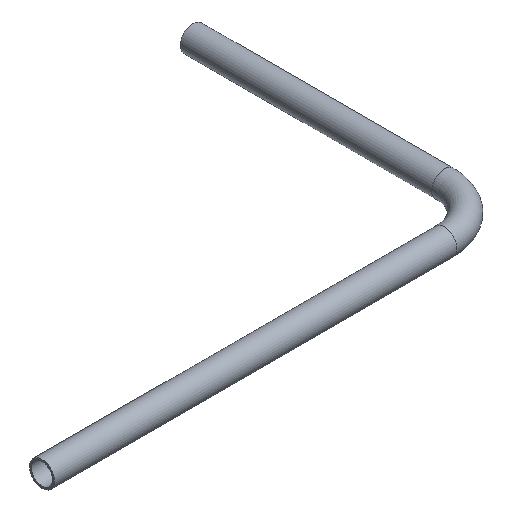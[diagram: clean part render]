
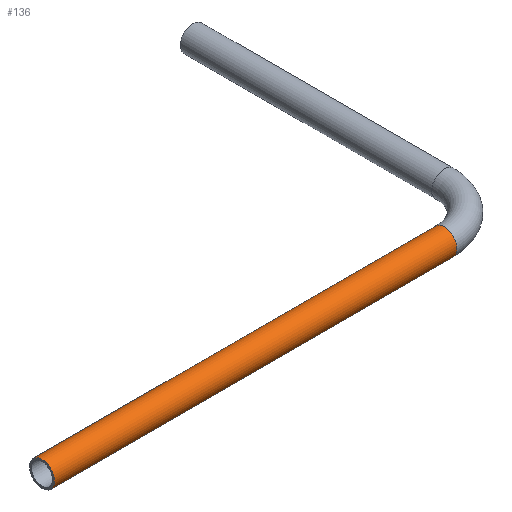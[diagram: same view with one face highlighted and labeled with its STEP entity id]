
A CAD part, isometric view. The second image highlights one B-rep face of the part: STEP entity #136.
In plain terms, the highlighted cylindrical face has radius 12.5 mm (diameter 25 mm), a full revolution.
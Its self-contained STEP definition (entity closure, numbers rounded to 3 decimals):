
#26=FACE_OUTER_BOUND('',#34,.T.);
#34=EDGE_LOOP('',(#118,#119,#120,#121,#122));
#42=LINE('',#260,#46);
#46=VECTOR('',#218,12.5);
#58=CIRCLE('',#169,12.5);
#59=CIRCLE('',#170,12.5);
#60=CIRCLE('',#172,12.5);
#70=VERTEX_POINT('',#253);
#71=VERTEX_POINT('',#255);
#72=VERTEX_POINT('',#259);
#87=EDGE_CURVE('',#70,#71,#58,.T.);
#88=EDGE_CURVE('',#71,#70,#59,.T.);
#89=EDGE_CURVE('',#71,#72,#42,.T.);
#90=EDGE_CURVE('',#72,#72,#60,.T.);
#118=ORIENTED_EDGE('',*,*,#88,.F.);
#119=ORIENTED_EDGE('',*,*,#89,.T.);
#120=ORIENTED_EDGE('',*,*,#90,.T.);
#121=ORIENTED_EDGE('',*,*,#89,.F.);
#122=ORIENTED_EDGE('',*,*,#87,.F.);
#130=CYLINDRICAL_SURFACE('',#171,12.5);
#136=ADVANCED_FACE('',(#26),#130,.T.);
#169=AXIS2_PLACEMENT_3D('',#256,#212,#213);
#170=AXIS2_PLACEMENT_3D('',#257,#214,#215);
#171=AXIS2_PLACEMENT_3D('',#258,#216,#217);
#172=AXIS2_PLACEMENT_3D('',#261,#219,#220);
#212=DIRECTION('center_axis',(1.,0.,0.));
#213=DIRECTION('ref_axis',(0.,1.,0.));
#214=DIRECTION('center_axis',(1.,0.,0.));
#215=DIRECTION('ref_axis',(0.,1.,0.));
#216=DIRECTION('center_axis',(1.,0.,0.));
#217=DIRECTION('ref_axis',(0.,1.,0.));
#218=DIRECTION('',(-1.,0.,0.));
#219=DIRECTION('center_axis',(1.,0.,0.));
#220=DIRECTION('ref_axis',(0.,1.,0.));
#253=CARTESIAN_POINT('',(400.,12.5,0.));
#255=CARTESIAN_POINT('',(400.,-12.5,0.));
#256=CARTESIAN_POINT('Origin',(400.,0.,0.));
#257=CARTESIAN_POINT('Origin',(400.,0.,0.));
#258=CARTESIAN_POINT('Origin',(0.,0.,0.));
#259=CARTESIAN_POINT('',(0.,-12.5,0.));
#260=CARTESIAN_POINT('',(0.,-12.5,0.));
#261=CARTESIAN_POINT('Origin',(0.,0.,0.));
